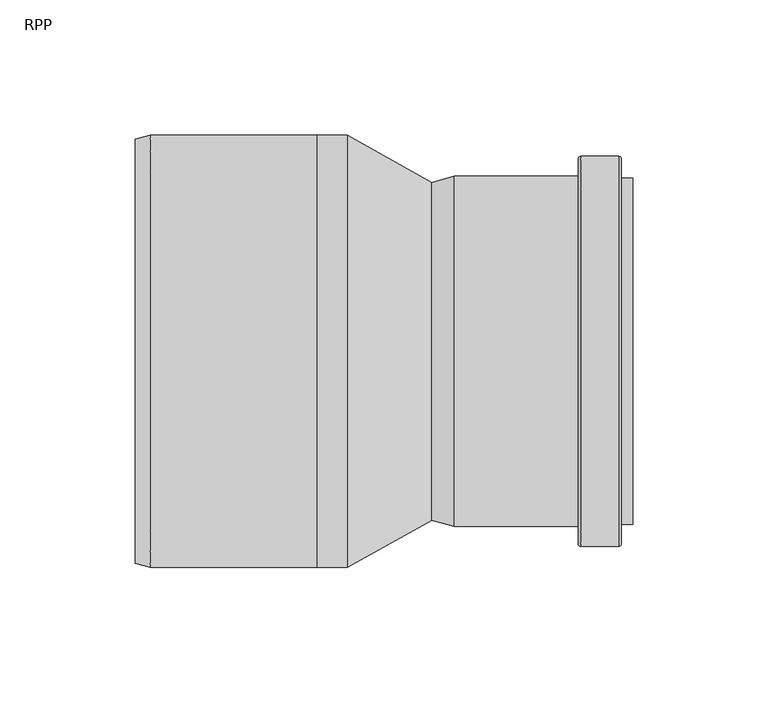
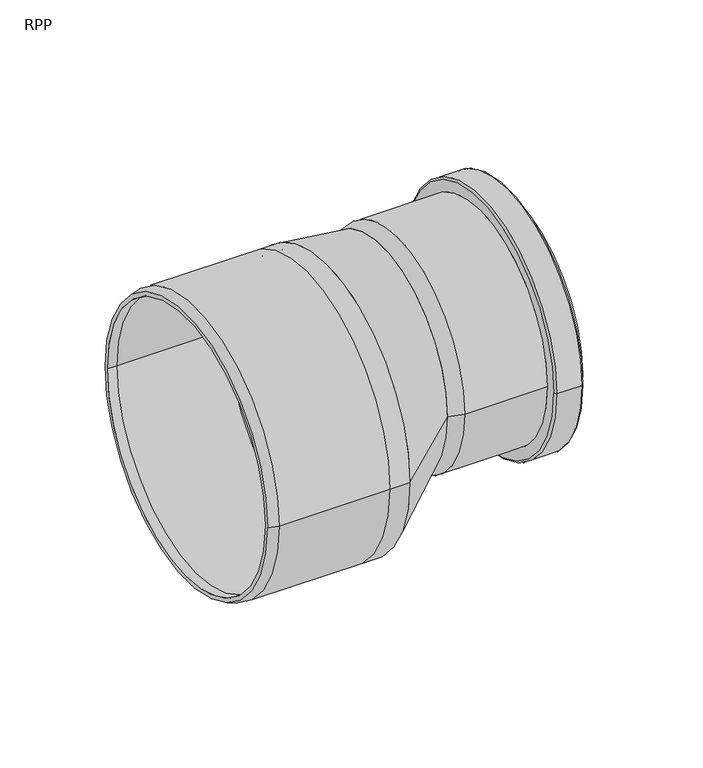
"""IFC4 building model written with IfcOpenShell, lengths in millimetres: pipe fitting geometry, RAUPIANO PLUS Reducer : RPP."""

from ifc_helpers import new_model, si_unit, point, frame, origin, place, context, project, spatial, polyline, circle_curve, ellipse_curve, trimmed, source, transform, mapped, element, save
from ifc_brep_helpers import plane_surface, cylinder_surface, revolved_surface, spline_surface, advanced_brep


def rpp_299ff225(model_context):
    return source(origin(), model_context, "Body", "AdvancedBrep", [
        advanced_brep(
        [(69.8, 64.7507732, 17.5), (69.8, -64.7507732, 17.5), (24.0, -64.7507732, 17.5), (24.0, 64.7507732, 17.5), (90.0, 64.1076952, 17.5), (90.0, -64.1076952, 17.5), (85.8, -64.1076952, 17.5), (85.8, 64.1076952, 17.5), (85.8, 61.6507732, 17.5), (85.8, -61.6507732, 17.5), (90.0, -61.6507732, 17.5), (90.0, 61.6507732, 17.5), (24.0, 61.6507732, 17.5), (24.0, -61.6507732, 17.5), (15.6, 59.4, 17.5), (15.6, -59.4, 17.5), (15.6, -62.5, 17.5), (15.6, 62.5, 17.5), (70.8, 72.1507732, 17.5), (70.8, -72.1507732, 17.5), (69.8, -71.1507732, 17.5), (69.8, 71.1507732, 17.5), (84.8, 72.1507732, 17.5), (84.8, -72.1507732, 17.5), (85.8, 71.1507732, 17.5), (85.8, -71.1507732, 17.5)],
        [
            (0, 1, circle_curve(frame((69.8, 0.0, 17.5), z_axis=(-1.0, 0.0, 0.0), x_axis=(0.0, -1.0, 0.0)), 64.7507732)),
            (1, 2),
            (2, 3, circle_curve(frame((24.0, 0.0, 17.5), z_axis=(1.0, 0.0, 0.0), x_axis=(0.0, -1.0, 0.0)), 64.7507732)),
            (3, 0),
            (4, 5, circle_curve(frame((90.0, 0.0, 17.5), z_axis=(-1.0, 0.0, 0.0), x_axis=(0.0, -1.0, 0.0)), 64.1076952)),
            (5, 6),
            (6, 7, circle_curve(frame((85.8, 0.0, 17.5), z_axis=(1.0, 0.0, 0.0), x_axis=(0.0, -1.0, 0.0)), 64.1076952)),
            (7, 4),
            (8, 9, circle_curve(frame((85.8, 0.0, 17.5), z_axis=(-1.0, 0.0, 0.0), x_axis=(0.0, -1.0, 0.0)), 61.6507732)),
            (9, 10),
            (10, 11, circle_curve(frame((90.0, 0.0, 17.5), z_axis=(1.0, 0.0, 0.0), x_axis=(0.0, -1.0, 0.0)), 61.6507732)),
            (11, 8),
            (12, 13, circle_curve(frame((24.0, 0.0, 17.5), z_axis=(-1.0, 0.0, 0.0), x_axis=(0.0, -1.0, 0.0)), 61.6507732)),
            (13, 9),
            (8, 12),
            (14, 15, circle_curve(frame((15.6, 0.0, 17.5), z_axis=(-1.0, 0.0, 0.0), x_axis=(0.0, -1.0, 0.0)), 59.4)),
            (15, 13),
            (12, 14),
            (2, 16),
            (16, 17, circle_curve(frame((15.6, 0.0, 17.5), z_axis=(1.0, 0.0, 0.0), x_axis=(0.0, -1.0, 0.0)), 62.5)),
            (17, 3),
            (1, 0, circle_curve(frame((69.8, 0.0, 17.5), z_axis=(-1.0, 0.0, 0.0), x_axis=(0.0, 1.0, 0.0)), 64.7507732)),
            (3, 2, circle_curve(frame((24.0, 0.0, 17.5), z_axis=(1.0, 0.0, 0.0), x_axis=(0.0, 1.0, 0.0)), 64.7507732)),
            (5, 4, circle_curve(frame((90.0, 0.0, 17.5), z_axis=(-1.0, 0.0, 0.0), x_axis=(0.0, 1.0, 0.0)), 64.1076952)),
            (7, 6, circle_curve(frame((85.8, 0.0, 17.5), z_axis=(1.0, 0.0, 0.0), x_axis=(0.0, 1.0, 0.0)), 64.1076952)),
            (10, 11, circle_curve(frame((90.0, 0.0, 17.5), z_axis=(-1.0, 0.0, 0.0), x_axis=(0.0, 1.0, 0.0)), 61.6507732)),
            (9, 8, circle_curve(frame((85.8, 0.0, 17.5), z_axis=(-1.0, 0.0, 0.0), x_axis=(0.0, 1.0, 0.0)), 61.6507732)),
            (13, 12, circle_curve(frame((24.0, 0.0, 17.5), z_axis=(-1.0, 0.0, 0.0), x_axis=(0.0, 1.0, 0.0)), 61.6507732)),
            (15, 14, circle_curve(frame((15.6, 0.0, 17.5), z_axis=(-1.0, 0.0, 0.0), x_axis=(0.0, 1.0, 0.0)), 59.4)),
            (17, 16, circle_curve(frame((15.6, 0.0, 17.5), z_axis=(1.0, 0.0, 0.0), x_axis=(0.0, 1.0, 0.0)), 62.5)),
            (18, 19, circle_curve(frame((70.8, 0.0, 17.5), z_axis=(-1.0, 0.0, 0.0), x_axis=(0.0, -1.0, 0.0)), 72.1507732)),
            (19, 20, circle_curve(frame((70.8, -71.1507732, 17.5), z_axis=(0.0, 0.0, -1.0), x_axis=(1.0, 0.0, 0.0)), 1.0)),
            (20, 21, circle_curve(frame((69.8, 0.0, 17.5), z_axis=(1.0, 0.0, 0.0), x_axis=(0.0, -1.0, 0.0)), 71.1507732)),
            (21, 18, circle_curve(frame((70.8, 71.1507732, 17.5), z_axis=(0.0, 0.0, -1.0), x_axis=(1.0, 0.0, 0.0)), 1.0)),
            (22, 23, circle_curve(frame((84.8, 0.0, 17.5), z_axis=(-1.0, 0.0, 0.0), x_axis=(0.0, -1.0, 0.0)), 72.1507732)),
            (23, 19),
            (18, 22),
            (24, 25, circle_curve(frame((85.8, 0.0, 17.5), z_axis=(-1.0, 0.0, 0.0), x_axis=(0.0, -1.0, 0.0)), 71.1507732)),
            (25, 23, circle_curve(frame((84.8, -71.1507732, 17.5), z_axis=(0.0, 0.0, -1.0), x_axis=(1.0, 0.0, 0.0)), 1.0)),
            (22, 24, circle_curve(frame((84.8, 71.1507732, 17.5), z_axis=(0.0, 0.0, -1.0), x_axis=(1.0, 0.0, 0.0)), 1.0)),
            (20, 21, circle_curve(frame((69.8, 0.0, 17.5), z_axis=(-1.0, 0.0, 0.0), x_axis=(0.0, 1.0, 0.0)), 71.1507732)),
            (19, 18, circle_curve(frame((70.8, 0.0, 17.5), z_axis=(-1.0, 0.0, 0.0), x_axis=(0.0, 1.0, 0.0)), 72.1507732)),
            (23, 22, circle_curve(frame((84.8, 0.0, 17.5), z_axis=(-1.0, 0.0, 0.0), x_axis=(0.0, 1.0, 0.0)), 72.1507732)),
            (25, 24, circle_curve(frame((85.8, 0.0, 17.5), z_axis=(-1.0, 0.0, 0.0), x_axis=(0.0, 1.0, 0.0)), 71.1507732)),
        ],
        [
            cylinder_surface(frame((0.0, 0.0, 17.5), z_axis=(1.0, 0.0, 0.0), x_axis=(0.0, -1.0, 0.0)), 64.7507732),
            cylinder_surface(frame((0.0, 0.0, 17.5), z_axis=(1.0, 0.0, 0.0), x_axis=(0.0, -1.0, 0.0)), 64.1076952),
            revolved_surface(polyline([(90.0, -61.6507732, 17.5), (85.8, -61.6507732, 17.5)]), (0.0, 0.0, 17.5), (1.0, 0.0, 0.0)),
            revolved_surface(polyline([(85.8, -61.6507732, 17.5), (24.0, -61.6507732, 17.5)]), (0.0, 0.0, 17.5), (1.0, 0.0, 0.0)),
            revolved_surface(polyline([(24.0, -61.6507732, 17.5), (15.6, -59.4, 17.5)]), (0.0, 0.0, 17.5), (1.0, 0.0, 0.0)),
            revolved_surface(polyline([(15.6, -62.5, 17.5), (24.0, -64.7507732, 17.5)]), (0.0, 0.0, 17.5), (1.0, 0.0, 0.0)),
            cylinder_surface(frame((0.0, 0.0, 17.5), z_axis=(1.0, 0.0, 0.0), x_axis=(0.0, 1.0, 0.0)), 64.7507732),
            cylinder_surface(frame((0.0, 0.0, 17.5), z_axis=(1.0, 0.0, 0.0), x_axis=(0.0, 1.0, 0.0)), 64.1076952),
            plane_surface(frame((90.0, 0.0, 17.5), z_axis=(1.0, 0.0, 0.0), x_axis=(0.0, 1.0, 0.0))),
            revolved_surface(polyline([(90.0, 61.6507732, 17.5), (85.8, 61.6507732, 17.5)]), (0.0, 0.0, 17.5), (1.0, 0.0, 0.0)),
            revolved_surface(polyline([(85.8, 61.6507732, 17.5), (24.0, 61.6507732, 17.5)]), (0.0, 0.0, 17.5), (1.0, 0.0, 0.0)),
            revolved_surface(polyline([(24.0, 61.6507732, 17.5), (15.6, 59.4, 17.5)]), (0.0, 0.0, 17.5), (1.0, 0.0, 0.0)),
            revolved_surface(polyline([(15.6, 62.5, 17.5), (24.0, 64.7507732, 17.5)]), (0.0, 0.0, 17.5), (1.0, 0.0, 0.0)),
            revolved_surface(trimmed(ellipse_curve(frame((70.8, -71.1507732, 17.5), z_axis=(0.0, 0.0, 1.0), x_axis=(1.0, 0.0, 0.0)), 1.0, 1.0), [point((69.8, -71.1507732, 17.5))], [point((70.8, -72.1507732, 17.5))], True, "CARTESIAN"), (0.0, 0.0, 17.5), (1.0, 0.0, 0.0)),
            cylinder_surface(frame((0.0, 0.0, 17.5), z_axis=(1.0, 0.0, 0.0), x_axis=(0.0, -1.0, 0.0)), 72.1507732),
            revolved_surface(trimmed(ellipse_curve(frame((84.8, -71.1507732, 17.5), z_axis=(0.0, 0.0, 1.0), x_axis=(1.0, 0.0, 0.0)), 1.0, 1.0), [point((84.8, -72.1507732, 17.5))], [point((85.8, -71.1507732, 17.5))], True, "CARTESIAN"), (0.0, 0.0, 17.5), (1.0, 0.0, 0.0)),
            plane_surface(frame((69.8, 0.0, 17.5), z_axis=(-1.0, 0.0, 0.0), x_axis=(0.0, 1.0, 0.0))),
            revolved_surface(trimmed(ellipse_curve(frame((70.8, 71.1507732, 17.5), z_axis=(0.0, 0.0, -1.0), x_axis=(1.0, 0.0, 0.0)), 1.0, 1.0), [point((69.8, 71.1507732, 17.5))], [point((70.8, 72.1507732, 17.5))], True, "CARTESIAN"), (0.0, 0.0, 17.5), (1.0, 0.0, 0.0)),
            cylinder_surface(frame((0.0, 0.0, 17.5), z_axis=(1.0, 0.0, 0.0), x_axis=(0.0, 1.0, 0.0)), 72.1507732),
            revolved_surface(trimmed(ellipse_curve(frame((84.8, 71.1507732, 17.5), z_axis=(0.0, 0.0, -1.0), x_axis=(1.0, 0.0, 0.0)), 1.0, 1.0), [point((84.8, 72.1507732, 17.5))], [point((85.8, 71.1507732, 17.5))], True, "CARTESIAN"), (0.0, 0.0, 17.5), (1.0, 0.0, 0.0)),
            plane_surface(frame((85.8, 0.0, 17.5), z_axis=(1.0, 0.0, 0.0), x_axis=(0.0, 1.0, 0.0))),
            plane_surface(frame((15.6, 0.0, 17.5), z_axis=(-1.0, 0.0, 0.0), x_axis=(0.0, 1.0, 0.0))),
        ],
        [
            (0, [[1, 2, 3, 4]]),
            (1, [[5, 6, 7, 8]]),
            (2, [[9, 10, 11, 12]]),
            (3, [[13, 14, -9, 15]]),
            (4, [[16, 17, -13, 18]]),
            (5, [[-3, 19, 20, 21]]),
            (6, [[22, -4, 23, -2]]),
            (7, [[24, -8, 25, -6]]),
            (8, [[-24, -5], [26, -11]]),
            (9, [[27, -12, -26, -10]]),
            (10, [[28, -15, -27, -14]]),
            (11, [[29, -18, -28, -17]]),
            (12, [[-23, -21, 30, -19]]),
            (13, [[31, 32, 33, 34]]),
            (14, [[35, 36, -31, 37]]),
            (15, [[38, 39, -35, 40]]),
            (16, [[41, -33], [-22, -1]]),
            (17, [[42, -34, -41, -32]]),
            (18, [[43, -37, -42, -36]]),
            (19, [[44, -40, -43, -39]]),
            (20, [[-44, -38], [-25, -7]]),
            (21, [[-30, -20], [-29, -16]]),
        ],
    ),
        advanced_brep(
        [(-15.6, 80.0, 0.0), (-15.6, -80.0, 0.0), (-26.6, -80.0, 0.0), (-26.6, 80.0, 0.0), (-26.6, 76.1, 0.0), (-26.6, -76.1, 0.0), (-15.6, -76.1, 0.0), (-15.6, 76.1, 0.0), (-88.5, 76.1, 0.0), (-88.5, -76.1, 0.0), (-94.0, 76.1, 0.0), (-94.0, -76.1, 0.0), (-88.5, 80.0, 0.0), (-88.5, -80.0, 0.0), (-94.0, -78.5262794, 0.0), (-94.0, 78.5262794, 0.0)],
        [
            (0, 1, circle_curve(frame((-15.6, 0.0, 0.0), z_axis=(-1.0, 0.0, 0.0), x_axis=(0.0, -1.0, 0.0)), 80.0)),
            (1, 2),
            (2, 3, circle_curve(frame((-26.6, 0.0, 0.0), z_axis=(1.0, 0.0, 0.0), x_axis=(0.0, -1.0, 0.0)), 80.0)),
            (3, 0),
            (4, 5, circle_curve(frame((-26.6, 0.0, 0.0), z_axis=(-1.0, 0.0, 0.0), x_axis=(0.0, -1.0, 0.0)), 76.1)),
            (5, 6),
            (6, 7, circle_curve(frame((-15.6, 0.0, 0.0), z_axis=(1.0, 0.0, 0.0), x_axis=(0.0, -1.0, 0.0)), 76.1)),
            (7, 4),
            (8, 9, circle_curve(frame((-88.5, 0.0, 0.0), z_axis=(-1.0, 0.0, 0.0), x_axis=(0.0, -1.0, 0.0)), 76.1)),
            (9, 5),
            (4, 8),
            (10, 11, circle_curve(frame((-94.0, 0.0, 0.0), z_axis=(-1.0, 0.0, 0.0), x_axis=(0.0, -1.0, 0.0)), 76.1)),
            (11, 9),
            (8, 10),
            (12, 13, circle_curve(frame((-88.5, 0.0, 0.0), z_axis=(-1.0, 0.0, 0.0), x_axis=(0.0, -1.0, 0.0)), 80.0)),
            (13, 14),
            (14, 15, circle_curve(frame((-94.0, 0.0, 0.0), z_axis=(1.0, 0.0, 0.0), x_axis=(0.0, -1.0, 0.0)), 78.5262794)),
            (15, 12),
            (2, 13),
            (12, 3),
            (1, 0, circle_curve(frame((-15.6, 0.0, 0.0), z_axis=(-1.0, 0.0, 0.0), x_axis=(0.0, 1.0, 0.0)), 80.0)),
            (3, 2, circle_curve(frame((-26.6, 0.0, 0.0), z_axis=(1.0, 0.0, 0.0), x_axis=(0.0, 1.0, 0.0)), 80.0)),
            (6, 7, circle_curve(frame((-15.6, 0.0, 0.0), z_axis=(-1.0, 0.0, 0.0), x_axis=(0.0, 1.0, 0.0)), 76.1)),
            (5, 4, circle_curve(frame((-26.6, 0.0, 0.0), z_axis=(-1.0, 0.0, 0.0), x_axis=(0.0, 1.0, 0.0)), 76.1)),
            (9, 8, circle_curve(frame((-88.5, 0.0, 0.0), z_axis=(-1.0, 0.0, 0.0), x_axis=(0.0, 1.0, 0.0)), 76.1)),
            (11, 10, circle_curve(frame((-94.0, 0.0, 0.0), z_axis=(-1.0, 0.0, 0.0), x_axis=(0.0, 1.0, 0.0)), 76.1)),
            (14, 15, circle_curve(frame((-94.0, 0.0, 0.0), z_axis=(-1.0, 0.0, 0.0), x_axis=(0.0, 1.0, 0.0)), 78.5262794)),
            (13, 12, circle_curve(frame((-88.5, 0.0, 0.0), z_axis=(-1.0, 0.0, 0.0), x_axis=(0.0, 1.0, 0.0)), 80.0)),
        ],
        [
            cylinder_surface(frame((0.0, 0.0, 0.0), z_axis=(1.0, 0.0, 0.0), x_axis=(0.0, -1.0, 0.0)), 80.0),
            revolved_surface(polyline([(-15.6, -76.1, 0.0), (-26.6, -76.1, 0.0)]), (0.0, 0.0, 0.0), (1.0, 0.0, 0.0)),
            revolved_surface(polyline([(-26.6, -76.1, 0.0), (-88.5, -76.1, 0.0)]), (0.0, 0.0, 0.0), (1.0, 0.0, 0.0)),
            revolved_surface(polyline([(-88.5, -76.1, 0.0), (-94.0, -76.1, 0.0)]), (0.0, 0.0, 0.0), (1.0, 0.0, 0.0)),
            revolved_surface(polyline([(-94.0, -78.5262794, 0.0), (-88.5, -80.0, 0.0)]), (0.0, 0.0, 0.0), (1.0, 0.0, 0.0)),
            cylinder_surface(frame((0.0, 0.0, 0.0), z_axis=(1.0, 0.0, 0.0), x_axis=(0.0, 1.0, 0.0)), 80.0),
            plane_surface(frame((-15.6, 0.0, 0.0), z_axis=(1.0, 0.0, 0.0), x_axis=(0.0, 1.0, 0.0))),
            revolved_surface(polyline([(-15.6, 76.1, 0.0), (-26.6, 76.1, 0.0)]), (0.0, 0.0, 0.0), (1.0, 0.0, 0.0)),
            revolved_surface(polyline([(-26.6, 76.1, 0.0), (-88.5, 76.1, 0.0)]), (0.0, 0.0, 0.0), (1.0, 0.0, 0.0)),
            revolved_surface(polyline([(-88.5, 76.1, 0.0), (-94.0, 76.1, 0.0)]), (0.0, 0.0, 0.0), (1.0, 0.0, 0.0)),
            plane_surface(frame((-94.0, 0.0, 0.0), z_axis=(-1.0, 0.0, 0.0), x_axis=(0.0, 1.0, 0.0))),
            revolved_surface(polyline([(-94.0, 78.5262794, 0.0), (-88.5, 80.0, 0.0)]), (0.0, 0.0, 0.0), (1.0, 0.0, 0.0)),
        ],
        [
            (0, [[1, 2, 3, 4]]),
            (1, [[5, 6, 7, 8]]),
            (2, [[9, 10, -5, 11]]),
            (3, [[12, 13, -9, 14]]),
            (4, [[15, 16, 17, 18]]),
            (0, [[-3, 19, -15, 20]]),
            (5, [[21, -4, 22, -2]]),
            (6, [[-21, -1], [23, -7]]),
            (7, [[24, -8, -23, -6]]),
            (8, [[25, -11, -24, -10]]),
            (9, [[26, -14, -25, -13]]),
            (10, [[27, -17], [-26, -12]]),
            (11, [[28, -18, -27, -16]]),
            (5, [[-22, -20, -28, -19]]),
        ],
    ),
        advanced_brep(
        [(15.6, -62.5, 17.5), (15.6, 62.5, 17.5), (-15.6, -80.0, 0.0), (-15.6, 80.0, 0.0)],
        [
            (0, 1, circle_curve(frame((15.6, 0.0, 17.5), z_axis=(1.0, 0.0, 0.0), x_axis=(0.0, 1.0, 0.0)), 62.5)),
            (1, 0, circle_curve(frame((15.6, 0.0, 17.5), z_axis=(1.0, 0.0, 0.0), x_axis=(0.0, 1.0, 0.0)), 62.5)),
            (2, 3, circle_curve(frame((-15.6, 0.0, 0.0), z_axis=(-1.0, 0.0, 0.0), x_axis=(0.0, 1.0, 0.0)), 80.0)),
            (3, 2, circle_curve(frame((-15.6, 0.0, 0.0), z_axis=(-1.0, 0.0, 0.0), x_axis=(0.0, 1.0, 0.0)), 80.0)),
            (3, 1),
            (0, 2),
        ],
        [
            plane_surface(frame((15.6, 0.0, 17.5), z_axis=(1.0, 0.0, 0.0), x_axis=(0.0, 0.0, -1.0))),
            plane_surface(frame((-15.6, 0.0, 0.0), z_axis=(-1.0, 0.0, 0.0), x_axis=(0.0, 0.0, -1.0))),
            spline_surface(2, 1, [[(-15.6, -80.0, 0.0), (15.6, -62.5, 17.5)], [(-15.6, -80.0, -80.0), (15.6, -62.5, -45.0)], [(-15.6, 0.0, -80.0), (15.6, 0.0, -45.0)], [(-15.6, 80.0, -80.0), (15.6, 62.5, -45.0)], [(-15.6, 80.0, 0.0), (15.6, 62.5, 17.5)]], [3, 2, 3], [2, 2], [0.0, 1.0, 2.0], [0.0, 1.0], weights=[[1.0, 1.0], [0.7071067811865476, 0.7071067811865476], [1.0, 1.0], [0.7071067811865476, 0.7071067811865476], [1.0, 1.0]]),
            spline_surface(2, 1, [[(-15.6, 80.0, 0.0), (15.6, 62.5, 17.5)], [(-15.6, 80.0, 80.0), (15.6, 62.5, 80.0)], [(-15.6, 0.0, 80.0), (15.6, 0.0, 80.0)], [(-15.6, -80.0, 80.0), (15.6, -62.5, 80.0)], [(-15.6, -80.0, 0.0), (15.6, -62.5, 17.5)]], [3, 2, 3], [2, 2], [0.0, 1.0, 2.0], [0.0, 1.0], weights=[[1.0, 1.0], [0.7071067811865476, 0.7071067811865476], [1.0, 1.0], [0.7071067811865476, 0.7071067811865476], [1.0, 1.0]]),
        ],
        [
            (0, [[1, 2]]),
            (1, [[3, 4]]),
            (2, [[-4, 5, -1, 6]]),
            (3, [[-3, -6, -2, -5]]),
        ],
    ),
    ])


if __name__ == "__main__":
    model = new_model("IFC4")
    model_context = context("Model", 3, world=origin())
    ifc_project = project(units=[si_unit("LENGTHUNIT", "METRE", prefix="MILLI")], contexts=[model_context])
    site = spatial("IfcSite", under=ifc_project)
    building = spatial("IfcBuilding", under=site)
    placement = place(None, origin())
    rpp_shape = rpp_299ff225(model_context)
    element("IfcPipeFitting", 1, ObjectType="RAUPIANO PLUS Reducer : RPP", at=placement, inside=building, context=model_context, shape_type="MappedRepresentation", body=[
        mapped(rpp_shape, transform((0.0, 0.0, 0.0), x_axis=(1.0, 0.0, 0.0), y_axis=(0.0, 1.0, 0.0), z_axis=(0.0, 0.0, 1.0))),
    ])
    save(model, "model.ifc")
